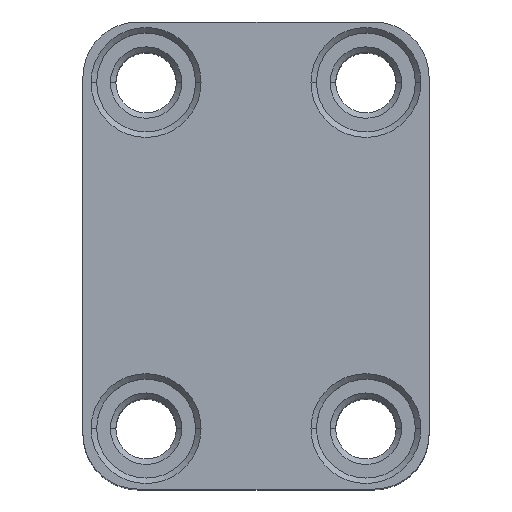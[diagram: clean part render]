
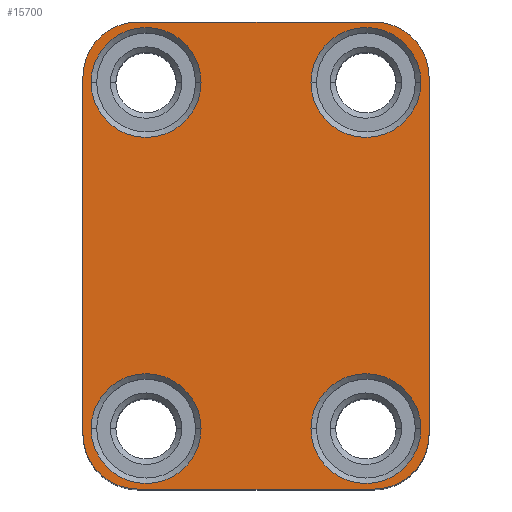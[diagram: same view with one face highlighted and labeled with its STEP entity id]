
A CAD part, top view. The second image highlights one B-rep face of the part: STEP entity #15700.
In plain terms, the highlighted planar face has unit normal (0, 0, 1).
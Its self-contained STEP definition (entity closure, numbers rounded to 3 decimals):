
#40 = DIRECTION ( 'NONE',  ( -1., 0., 0. ) ) ;
#264 = EDGE_CURVE ( 'NONE', #4795, #9324, #3454, .T. ) ;
#272 = AXIS2_PLACEMENT_3D ( 'NONE', #12290, #20332, #22441 ) ;
#298 = CARTESIAN_POINT ( 'NONE',  ( 10., 0., 99. ) ) ;
#747 = DIRECTION ( 'NONE',  ( 0., 0., 1. ) ) ;
#756 = DIRECTION ( 'NONE',  ( 0., 0., -1. ) ) ;
#850 = VERTEX_POINT ( 'NONE', #8800 ) ;
#962 = DIRECTION ( 'NONE',  ( 0., 0., 1. ) ) ;
#1021 = DIRECTION ( 'NONE',  ( 0., 0., -1. ) ) ;
#1232 = VERTEX_POINT ( 'NONE', #1482 ) ;
#1466 = VERTEX_POINT ( 'NONE', #19521 ) ;
#1482 = CARTESIAN_POINT ( 'NONE',  ( 10., 85., 99. ) ) ;
#1656 = EDGE_CURVE ( 'NONE', #23516, #18208, #1765, .T. ) ;
#1765 = CIRCLE ( 'NONE', #12326, 10. ) ;
#1881 = ORIENTED_EDGE ( 'NONE', *, *, #264, .T. ) ;
#1895 = PLANE ( 'NONE',  #20133 ) ;
#1977 = CIRCLE ( 'NONE', #23051, 10. ) ;
#2100 = DIRECTION ( 'NONE',  ( -1., 0., 0. ) ) ;
#2460 = CARTESIAN_POINT ( 'NONE',  ( 53., 10., 99. ) ) ;
#2575 = VERTEX_POINT ( 'NONE', #298 ) ;
#2631 = ORIENTED_EDGE ( 'NONE', *, *, #8281, .T. ) ;
#2717 = DIRECTION ( 'NONE',  ( -1., 0., 0. ) ) ;
#2727 = CARTESIAN_POINT ( 'NONE',  ( 11.5, 74., 99. ) ) ;
#2943 = DIRECTION ( 'NONE',  ( -1., 0., 0. ) ) ;
#2978 = AXIS2_PLACEMENT_3D ( 'NONE', #13854, #21638, #2100 ) ;
#2988 = DIRECTION ( 'NONE',  ( -1., 0., 0. ) ) ;
#3013 = AXIS2_PLACEMENT_3D ( 'NONE', #2460, #747, #2717 ) ;
#3454 = CIRCLE ( 'NONE', #3013, 10. ) ;
#3928 = DIRECTION ( 'NONE',  ( -1., 0., 0. ) ) ;
#4112 = EDGE_CURVE ( 'NONE', #8151, #1466, #10357, .T. ) ;
#4421 = CARTESIAN_POINT ( 'NONE',  ( 0., 0., 99. ) ) ;
#4651 = VERTEX_POINT ( 'NONE', #7725 ) ;
#4795 = VERTEX_POINT ( 'NONE', #24284 ) ;
#5072 = EDGE_CURVE ( 'NONE', #6985, #10790, #23937, .T. ) ;
#5242 = CARTESIAN_POINT ( 'NONE',  ( 21.5, 74., 99. ) ) ;
#5272 = ORIENTED_EDGE ( 'NONE', *, *, #1656, .T. ) ;
#5333 = LINE ( 'NONE', #20094, #22086 ) ;
#5710 = EDGE_CURVE ( 'NONE', #850, #20500, #19664, .T. ) ;
#6110 = DIRECTION ( 'NONE',  ( -1., 0., 0. ) ) ;
#6165 = AXIS2_PLACEMENT_3D ( 'NONE', #21867, #15918, #9731 ) ;
#6219 = ORIENTED_EDGE ( 'NONE', *, *, #13757, .T. ) ;
#6258 = EDGE_LOOP ( 'NONE', ( #9449, #12044, #16427, #1881, #22269, #6219, #19323, #23723 ) ) ;
#6272 = CARTESIAN_POINT ( 'NONE',  ( 61.5, 74., 99. ) ) ;
#6954 = EDGE_CURVE ( 'NONE', #17466, #4651, #17626, .T. ) ;
#6985 = VERTEX_POINT ( 'NONE', #17877 ) ;
#7384 = AXIS2_PLACEMENT_3D ( 'NONE', #10922, #1021, #19481 ) ;
#7725 = CARTESIAN_POINT ( 'NONE',  ( 0., 10., 99. ) ) ;
#8118 = LINE ( 'NONE', #4421, #19124 ) ;
#8151 = VERTEX_POINT ( 'NONE', #16523 ) ;
#8281 = EDGE_CURVE ( 'NONE', #20500, #850, #18719, .T. ) ;
#8285 = CIRCLE ( 'NONE', #272, 10. ) ;
#8310 = EDGE_LOOP ( 'NONE', ( #22314, #16134 ) ) ;
#8493 = CARTESIAN_POINT ( 'NONE',  ( 1.5, 74., 99. ) ) ;
#8782 = CARTESIAN_POINT ( 'NONE',  ( 63., 75., 99. ) ) ;
#8800 = CARTESIAN_POINT ( 'NONE',  ( 41.5, 11., 99. ) ) ;
#8805 = DIRECTION ( 'NONE',  ( -1., 0., 0. ) ) ;
#9290 = ORIENTED_EDGE ( 'NONE', *, *, #5710, .T. ) ;
#9324 = VERTEX_POINT ( 'NONE', #20013 ) ;
#9410 = LINE ( 'NONE', #17839, #17036 ) ;
#9449 = ORIENTED_EDGE ( 'NONE', *, *, #6954, .T. ) ;
#9731 = DIRECTION ( 'NONE',  ( -1., 0., 0. ) ) ;
#10357 = CIRCLE ( 'NONE', #11198, 10. ) ;
#10461 = EDGE_LOOP ( 'NONE', ( #2631, #9290 ) ) ;
#10504 = CARTESIAN_POINT ( 'NONE',  ( 10., 75., 99. ) ) ;
#10668 = EDGE_CURVE ( 'NONE', #2575, #4795, #8118, .T. ) ;
#10790 = VERTEX_POINT ( 'NONE', #6272 ) ;
#10857 = EDGE_CURVE ( 'NONE', #9324, #17290, #9410, .T. ) ;
#10922 = CARTESIAN_POINT ( 'NONE',  ( 11.5, 11., 99. ) ) ;
#11198 = AXIS2_PLACEMENT_3D ( 'NONE', #18978, #13563, #13443 ) ;
#11787 = FACE_BOUND ( 'NONE', #10461, .T. ) ;
#12020 = EDGE_CURVE ( 'NONE', #4651, #2575, #25944, .T. ) ;
#12044 = ORIENTED_EDGE ( 'NONE', *, *, #12020, .T. ) ;
#12232 = EDGE_CURVE ( 'NONE', #1232, #17466, #20911, .T. ) ;
#12290 = CARTESIAN_POINT ( 'NONE',  ( 51.5, 74., 99. ) ) ;
#12326 = AXIS2_PLACEMENT_3D ( 'NONE', #2727, #756, #8805 ) ;
#12487 = EDGE_CURVE ( 'NONE', #10790, #6985, #8285, .T. ) ;
#12573 = AXIS2_PLACEMENT_3D ( 'NONE', #13956, #22145, #3928 ) ;
#13007 = ORIENTED_EDGE ( 'NONE', *, *, #20849, .T. ) ;
#13419 = VERTEX_POINT ( 'NONE', #18683 ) ;
#13420 = DIRECTION ( 'NONE',  ( 0., 0., -1. ) ) ;
#13443 = DIRECTION ( 'NONE',  ( -1., 0., 0. ) ) ;
#13563 = DIRECTION ( 'NONE',  ( 0., 0., -1. ) ) ;
#13627 = DIRECTION ( 'NONE',  ( 0., 1., 0. ) ) ;
#13757 = EDGE_CURVE ( 'NONE', #17290, #13419, #1977, .T. ) ;
#13854 = CARTESIAN_POINT ( 'NONE',  ( 51.5, 11., 99. ) ) ;
#13956 = CARTESIAN_POINT ( 'NONE',  ( 51.5, 74., 99. ) ) ;
#14989 = CIRCLE ( 'NONE', #25954, 10. ) ;
#15120 = CARTESIAN_POINT ( 'NONE',  ( 11.5, 74., 99. ) ) ;
#15615 = CARTESIAN_POINT ( 'NONE',  ( 0., 0., 99. ) ) ;
#15700 = ADVANCED_FACE ( 'NONE', ( #23794, #11787, #17731, #25899, #23931 ), #1895, .F. ) ;
#15918 = DIRECTION ( 'NONE',  ( 0., 0., 1. ) ) ;
#15957 = CARTESIAN_POINT ( 'NONE',  ( 61.5, 11., 99. ) ) ;
#16134 = ORIENTED_EDGE ( 'NONE', *, *, #5072, .T. ) ;
#16427 = ORIENTED_EDGE ( 'NONE', *, *, #10668, .T. ) ;
#16523 = CARTESIAN_POINT ( 'NONE',  ( 21.5, 11., 99. ) ) ;
#16607 = AXIS2_PLACEMENT_3D ( 'NONE', #24178, #22462, #6110 ) ;
#17036 = VECTOR ( 'NONE', #13627, 1000. ) ;
#17290 = VERTEX_POINT ( 'NONE', #8782 ) ;
#17311 = CARTESIAN_POINT ( 'NONE',  ( 53., 75., 99. ) ) ;
#17466 = VERTEX_POINT ( 'NONE', #20654 ) ;
#17626 = LINE ( 'NONE', #21722, #23804 ) ;
#17731 = FACE_BOUND ( 'NONE', #22605, .T. ) ;
#17839 = CARTESIAN_POINT ( 'NONE',  ( 63., 0., 99. ) ) ;
#17877 = CARTESIAN_POINT ( 'NONE',  ( 41.5, 74., 99. ) ) ;
#18151 = EDGE_LOOP ( 'NONE', ( #21221, #24148 ) ) ;
#18208 = VERTEX_POINT ( 'NONE', #8493 ) ;
#18683 = CARTESIAN_POINT ( 'NONE',  ( 53., 85., 99. ) ) ;
#18719 = CIRCLE ( 'NONE', #16607, 10. ) ;
#18978 = CARTESIAN_POINT ( 'NONE',  ( 11.5, 11., 99. ) ) ;
#19124 = VECTOR ( 'NONE', #24471, 1000. ) ;
#19323 = ORIENTED_EDGE ( 'NONE', *, *, #25945, .T. ) ;
#19481 = DIRECTION ( 'NONE',  ( -1., 0., 0. ) ) ;
#19521 = CARTESIAN_POINT ( 'NONE',  ( 1.5, 11., 99. ) ) ;
#19664 = CIRCLE ( 'NONE', #2978, 10. ) ;
#20013 = CARTESIAN_POINT ( 'NONE',  ( 63., 10., 99. ) ) ;
#20017 = CIRCLE ( 'NONE', #7384, 10. ) ;
#20094 = CARTESIAN_POINT ( 'NONE',  ( 0., 85., 99. ) ) ;
#20133 = AXIS2_PLACEMENT_3D ( 'NONE', #15615, #21951, #24055 ) ;
#20332 = DIRECTION ( 'NONE',  ( 0., 0., -1. ) ) ;
#20495 = AXIS2_PLACEMENT_3D ( 'NONE', #10504, #24370, #22765 ) ;
#20500 = VERTEX_POINT ( 'NONE', #15957 ) ;
#20654 = CARTESIAN_POINT ( 'NONE',  ( 0., 75., 99. ) ) ;
#20849 = EDGE_CURVE ( 'NONE', #18208, #23516, #14989, .T. ) ;
#20911 = CIRCLE ( 'NONE', #20495, 10. ) ;
#21221 = ORIENTED_EDGE ( 'NONE', *, *, #4112, .T. ) ;
#21638 = DIRECTION ( 'NONE',  ( 0., 0., -1. ) ) ;
#21722 = CARTESIAN_POINT ( 'NONE',  ( 0., 0., 99. ) ) ;
#21867 = CARTESIAN_POINT ( 'NONE',  ( 10., 10., 99. ) ) ;
#21951 = DIRECTION ( 'NONE',  ( 0., 0., -1. ) ) ;
#22086 = VECTOR ( 'NONE', #40, 1000. ) ;
#22145 = DIRECTION ( 'NONE',  ( 0., 0., -1. ) ) ;
#22269 = ORIENTED_EDGE ( 'NONE', *, *, #10857, .T. ) ;
#22314 = ORIENTED_EDGE ( 'NONE', *, *, #12487, .T. ) ;
#22441 = DIRECTION ( 'NONE',  ( -1., 0., 0. ) ) ;
#22462 = DIRECTION ( 'NONE',  ( 0., 0., -1. ) ) ;
#22605 = EDGE_LOOP ( 'NONE', ( #5272, #13007 ) ) ;
#22765 = DIRECTION ( 'NONE',  ( -1., 0., 0. ) ) ;
#23051 = AXIS2_PLACEMENT_3D ( 'NONE', #17311, #962, #2943 ) ;
#23516 = VERTEX_POINT ( 'NONE', #5242 ) ;
#23521 = EDGE_CURVE ( 'NONE', #1466, #8151, #20017, .T. ) ;
#23723 = ORIENTED_EDGE ( 'NONE', *, *, #12232, .T. ) ;
#23794 = FACE_BOUND ( 'NONE', #18151, .T. ) ;
#23804 = VECTOR ( 'NONE', #23818, 1000. ) ;
#23818 = DIRECTION ( 'NONE',  ( 0., -1., 0. ) ) ;
#23931 = FACE_OUTER_BOUND ( 'NONE', #6258, .T. ) ;
#23937 = CIRCLE ( 'NONE', #12573, 10. ) ;
#24055 = DIRECTION ( 'NONE',  ( -1., 0., 0. ) ) ;
#24148 = ORIENTED_EDGE ( 'NONE', *, *, #23521, .T. ) ;
#24178 = CARTESIAN_POINT ( 'NONE',  ( 51.5, 11., 99. ) ) ;
#24284 = CARTESIAN_POINT ( 'NONE',  ( 53., 0., 99. ) ) ;
#24370 = DIRECTION ( 'NONE',  ( 0., 0., 1. ) ) ;
#24471 = DIRECTION ( 'NONE',  ( 1., 0., 0. ) ) ;
#25899 = FACE_BOUND ( 'NONE', #8310, .T. ) ;
#25944 = CIRCLE ( 'NONE', #6165, 10. ) ;
#25945 = EDGE_CURVE ( 'NONE', #13419, #1232, #5333, .T. ) ;
#25954 = AXIS2_PLACEMENT_3D ( 'NONE', #15120, #13420, #2988 ) ;
